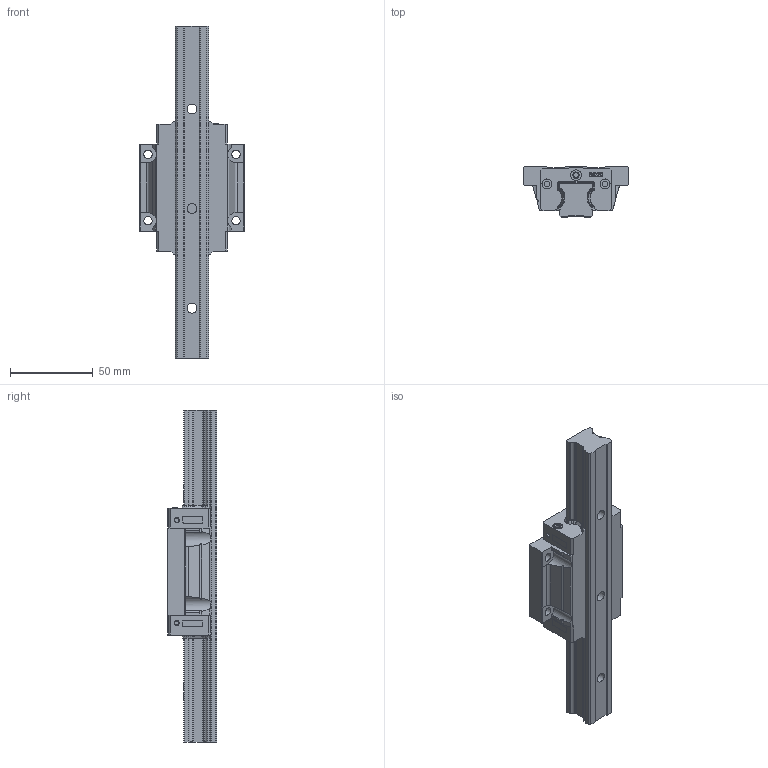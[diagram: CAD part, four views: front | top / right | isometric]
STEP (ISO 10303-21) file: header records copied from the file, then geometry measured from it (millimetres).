
FILE_DESCRIPTION(/* description */ (''),/* implementation_level */ '2;1');
FILE_NAME(/* name */ 'SGH20A.stp',/* time_stamp */ '2021-05-27T16:15:16+08:00',/* author */ (''),/* organization */ (''),/* preprocessor_version */ 'ST-DEVELOPER v15',/* originating_system */ 'SIEMENS PLM Software NX 8.5',/* authorisation */ '');
FILE_SCHEMA (('CONFIG_CONTROL_DESIGN'));
Length unit declared in the file: millimetre
Products named in the file (1): SGH20A
Bounding box: 63 x 30 x 200 mm (x, y, z)
Volume: 141839.3 mm3; surface area: 38023.8 mm2
Topology: 2 solids, 2 shells, 480 faces, 1329 edges, 892 vertices
Faces by surface type: plane 204, extrusion 114, cylinder 107, cone 43, bspline 12
Full cylindrical faces by diameter (mm): 2.5 x4, 2.8 x2, 3.3 x4, 3.5 x4, 3.8 x2, 5 x4, 6 x7, 6.5 x2, 9.5 x3
Entity records: 17100 total; most frequent: CARTESIAN_POINT 5491, ORIENTED_EDGE 2518, DIRECTION 2020, EDGE_CURVE 1259, VERTEX_POINT 865, VECTOR 764, LINE 650, AXIS2_PLACEMENT_3D 628
